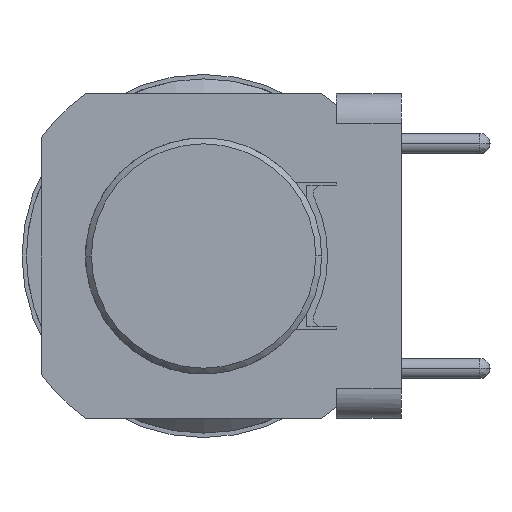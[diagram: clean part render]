
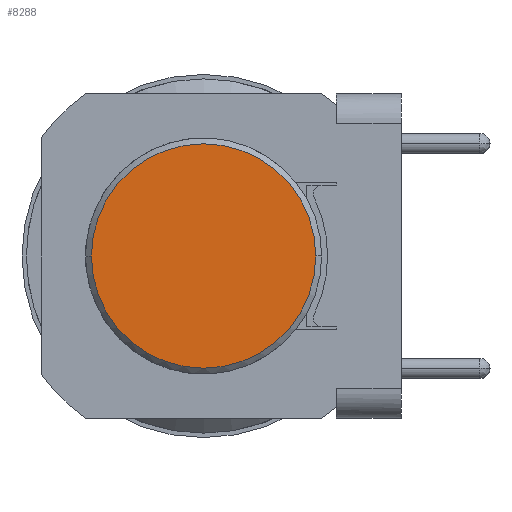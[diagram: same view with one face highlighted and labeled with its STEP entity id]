
A CAD part, left-side view. The second image highlights one B-rep face of the part: STEP entity #8288.
In plain terms, the highlighted planar face has unit normal (-1, 0, 0).
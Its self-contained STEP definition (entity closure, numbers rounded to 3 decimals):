
#638 = DIRECTION ( 'NONE',  ( 1., 0., 0. ) ) ;
#662 = DIRECTION ( 'NONE',  ( 0., 0., -1. ) ) ;
#1679 = CARTESIAN_POINT ( 'NONE',  ( -25., 0., 0. ) ) ;
#2460 = AXIS2_PLACEMENT_3D ( 'NONE', #9874, #3738, #9993 ) ;
#3104 = CIRCLE ( 'NONE', #6948, 3.8 ) ;
#3544 = PLANE ( 'NONE',  #2460 ) ;
#3738 = DIRECTION ( 'NONE',  ( 1., 0., 0. ) ) ;
#3807 = CARTESIAN_POINT ( 'NONE',  ( -25., 3.8, 0. ) ) ;
#4429 = ORIENTED_EDGE ( 'NONE', *, *, #8274, .F. ) ;
#4737 = AXIS2_PLACEMENT_3D ( 'NONE', #1679, #10913, #662 ) ;
#5021 = VERTEX_POINT ( 'NONE', #3807 ) ;
#6631 = ORIENTED_EDGE ( 'NONE', *, *, #7001, .F. ) ;
#6830 = VERTEX_POINT ( 'NONE', #12741 ) ;
#6948 = AXIS2_PLACEMENT_3D ( 'NONE', #10491, #638, #9738 ) ;
#7001 = EDGE_CURVE ( 'NONE', #5021, #6830, #11628, .T. ) ;
#8057 = EDGE_LOOP ( 'NONE', ( #6631, #4429 ) ) ;
#8274 = EDGE_CURVE ( 'NONE', #6830, #5021, #3104, .T. ) ;
#8288 = ADVANCED_FACE ( 'NONE', ( #12965 ), #3544, .F. ) ;
#9738 = DIRECTION ( 'NONE',  ( 0., 0., -1. ) ) ;
#9874 = CARTESIAN_POINT ( 'NONE',  ( -25., 0., 0. ) ) ;
#9993 = DIRECTION ( 'NONE',  ( 0., 0., -1. ) ) ;
#10491 = CARTESIAN_POINT ( 'NONE',  ( -25., 0., 0. ) ) ;
#10913 = DIRECTION ( 'NONE',  ( 1., 0., 0. ) ) ;
#11628 = CIRCLE ( 'NONE', #4737, 3.8 ) ;
#12741 = CARTESIAN_POINT ( 'NONE',  ( -25., -3.8, 0. ) ) ;
#12965 = FACE_OUTER_BOUND ( 'NONE', #8057, .T. ) ;
